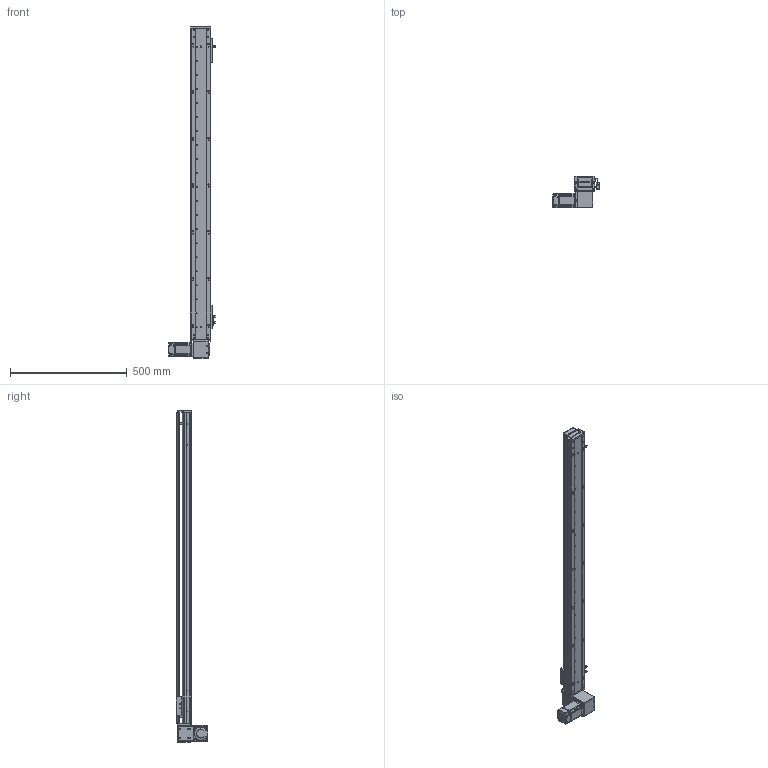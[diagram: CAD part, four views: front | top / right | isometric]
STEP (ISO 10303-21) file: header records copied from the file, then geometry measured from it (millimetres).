
FILE_DESCRIPTION (( 'STEP AP203' ), '1' );
FILE_NAME ('RY80-T-300-DL.SLDASM_1150.step', '2021-03-01T01:38:47', ( '盈信电脑' ), ( '东莞市道滘镇水果街19号' ), 'SwSTEP 2.0', 'SolidWorks 2012', '' );
FILE_SCHEMA (( 'CONFIG_CONTROL_DESIGN' ));
Products named in the file (19): RY80-T-300-DL.SLDASM_1150; RY80-T-上下折同步轮盖板; RY80-T-M4蹟翐3; RY80-T肮祭謫狟殏俋欶; RY100-T粣創揤踡裔; 1; RY80-T萇儂假蚾啣; 滅袉蝶18-10; RY80-T翋肮祭謫裔啣; RY80-T肮祭湍揤輸2; RY80-T肮祭湍揤輸1; RY80-T-翋肮祭謫釱; RY80-T綴裔啣; 672嫖萇羲壽假蚾釱; 覜茼ん672; RY80俋离覜茼え; RY80-T-300-DL倰第奻裔啣_1150; RY80-T-300-DL倰第菁釱_1150; RY80-T肮祭謫臏賑輸
Assembly tree (24 placements, depth 2):
  RY80-T-300-DL.SLDASM_1150
    RY80-T-300-DL倰第菁釱_1150
    RY80-T肮祭謫臏賑輸
    RY80-T-300-DL倰第奻裔啣_1150
    RY80-T綴裔啣
    672嫖萇羲壽假蚾釱  x2
    覜茼ん672  x3
    RY80俋离覜茼え
    RY80-T-翋肮祭謫釱
    RY80-T肮祭湍揤輸1
    RY80-T肮祭湍揤輸2
    RY80-T萇儂假蚾啣
    RY80-T翋肮祭謫裔啣  x2
    滅袉蝶18-10  x2
    1
    RY80-T肮祭謫狟殏俋欶
    RY80-T-M4蹟翐3  x2
    RY80-T-上下折同步轮盖板
    RY100-T粣創揤踡裔
Bounding box: 198.7 x 134.5 x 1420 mm (x, y, z)
Volume: 2381928.4 mm3; surface area: 1009478.2 mm2
Topology: 24 solids, 24 shells, 2500 faces, 6890 edges, 4473 vertices
Faces by surface type: plane 1341, cylinder 954, cone 149, bspline 56
Entity records: 78541 total; most frequent: CARTESIAN_POINT 18978, ORIENTED_EDGE 12224, DIRECTION 11514, EDGE_CURVE 6112, VERTEX_POINT 4014, AXIS2_PLACEMENT_3D 3874, LINE 3766, VECTOR 3766
